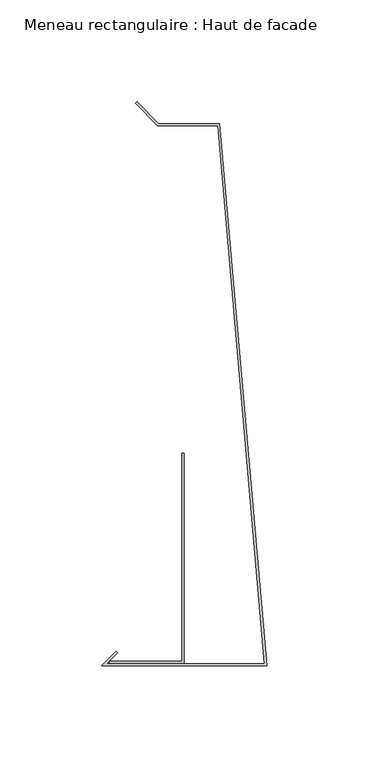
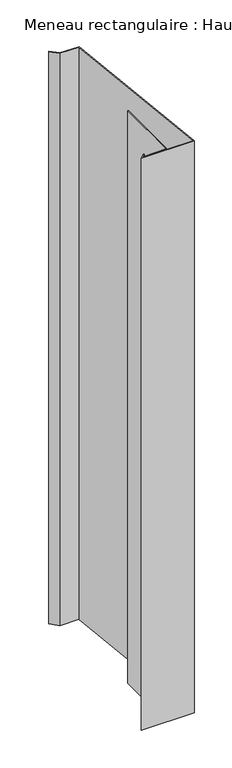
"""IFC4 building model written with IfcOpenShell, lengths in millimetres: member geometry, Meneau rectangulaire : Haut de facade."""

from ifc_helpers import new_model, si_unit, frame, origin, place, context, project, spatial, polyline, outline, extrude, source, transform, mapped, element, save


def meneau_rectangulaire_haut_de_facade_bf62b1f4(model_context):
    return source(origin(), model_context, "Body", "SweptSolid", [
        extrude(outline(polyline([(-24.0647895, 160.703755), (-53.5626719, 160.703755), (-64.4621669, 171.6032499), (-63.7550601, 172.3103567), (-53.1484584, 161.703755), (-23.1484584, 161.703755), (0.0, -104.2), (-81.0, -104.2), (-73.9289322, -97.1289322), (-73.2218254, -97.836039), (-78.5857864, -103.2), (-1.0913085, -103.2), (-24.0647895, 160.703755)])), frame((0.0, 0.0, -930.0), z_axis=(0.0, 0.0, 1.0), x_axis=(1.0, 0.0, 0.0)), (0.0, 0.0, 1.0), 930.0),
        extrude(outline(polyline([(-40.5477541, -102.9846816), (-77.0752814, -102.9846816), (-77.0752814, -101.9846816), (-41.5477541, -101.9846816), (-41.5477541, -0.0384227), (-40.5477541, -0.0384227), (-40.5477541, -102.9846816)])), frame((0.0, 0.0, -930.0), z_axis=(0.0, 0.0, 1.0), x_axis=(1.0, 0.0, 0.0)), (0.0, 0.0, 1.0), 930.0),
    ])


if __name__ == "__main__":
    model = new_model("IFC4")
    model_context = context("Model", 3, world=origin())
    ifc_project = project(units=[si_unit("LENGTHUNIT", "METRE", prefix="MILLI")], contexts=[model_context])
    site = spatial("IfcSite", under=ifc_project)
    building = spatial("IfcBuilding", under=site)
    placement = place(None, origin())
    meneau_rectangulaire_haut_de_facade_shape = meneau_rectangulaire_haut_de_facade_bf62b1f4(model_context)
    element("IfcMember", 1, ObjectType="Meneau rectangulaire : Haut de facade", at=placement, inside=building, context=model_context, shape_type="MappedRepresentation", body=[
        mapped(meneau_rectangulaire_haut_de_facade_shape, transform((0.0, 0.0, 0.0), x_axis=(1.0, 0.0, 0.0), y_axis=(0.0, 1.0, 0.0), z_axis=(0.0, 0.0, 1.0))),
    ])
    save(model, "model.ifc")
